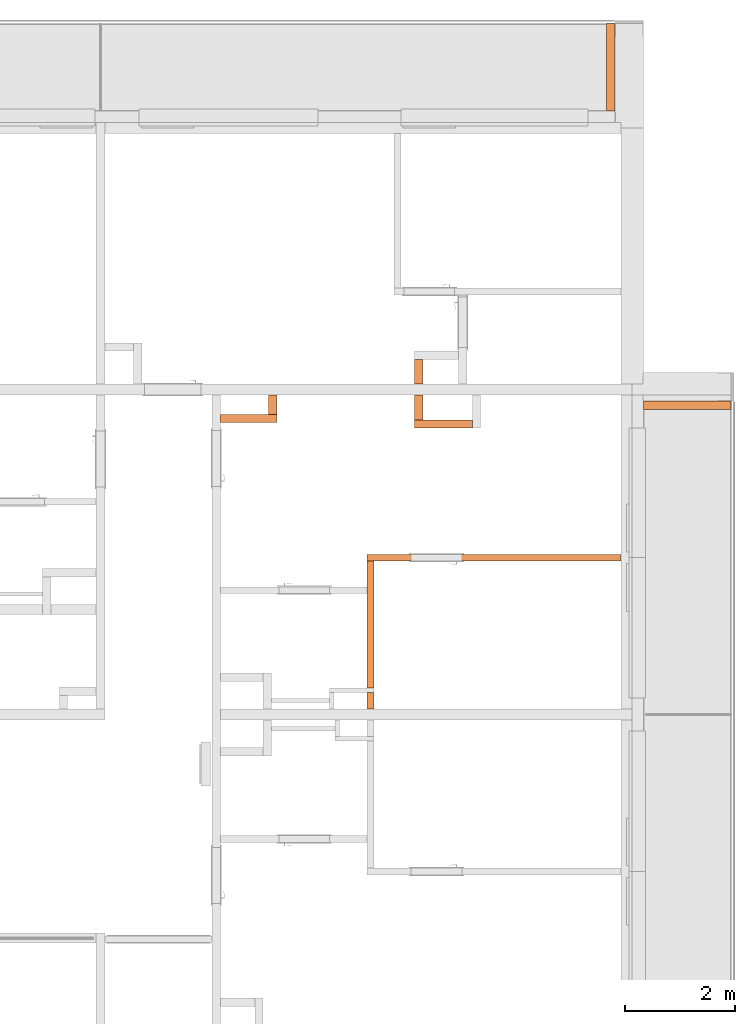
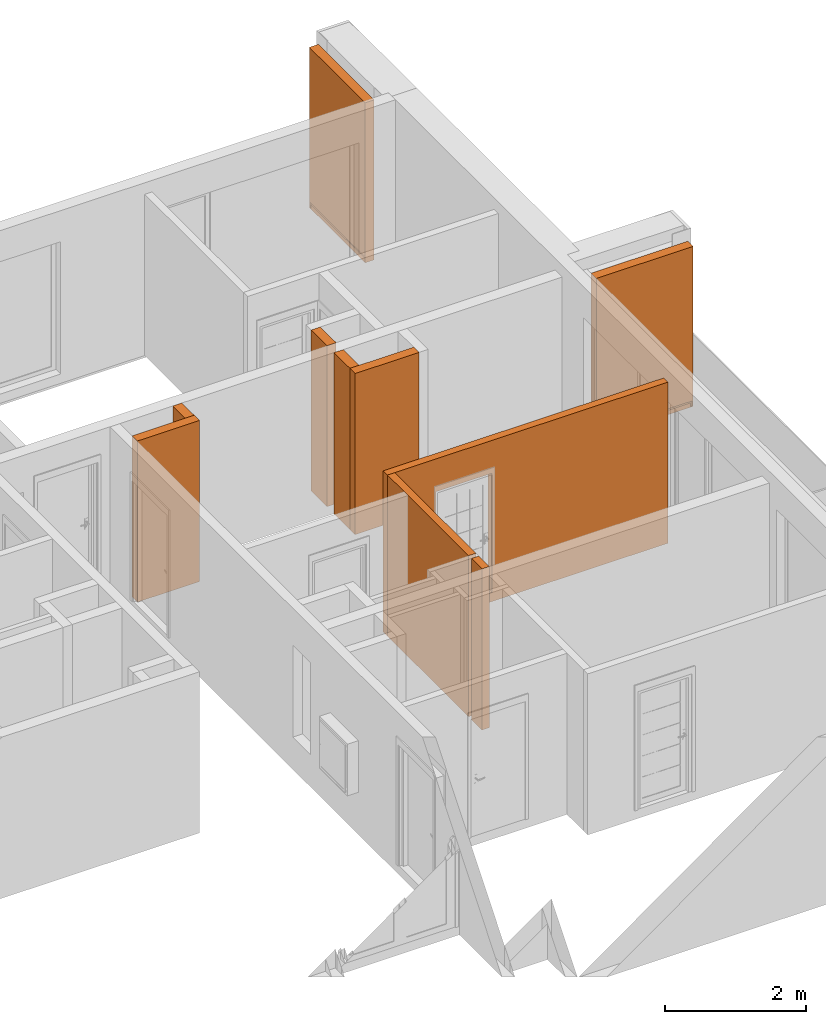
# One storey, part 66 of 66: 9 proxies, 1 opening.
"""IFC2X3 building model written with IfcOpenShell, lengths in millimetres."""

from ifc_helpers import new_model, entity, si_unit, converted_unit, derived_unit, money_unit, direction, frame, origin_with_axes, origin_2d_with_axis, place, context, subcontext, project, spatial, rectangle, extrude, faceted_brep, material, type_object, element, save


model = new_model("IFC2X3")

# Units and contexts
model_context = context("Model", 3, precision=0.01, world=origin_with_axes(), true_north=direction((0.34421633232, 0.938890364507)))
body_context = subcontext(model_context, "Body", "Model", "MODEL_VIEW")
ifc_project = project(units=[si_unit("LENGTHUNIT", "METRE", prefix="MILLI"), si_unit("AREAUNIT", "SQUARE_METRE"), si_unit("VOLUMEUNIT", "CUBIC_METRE"), converted_unit("PLANEANGLEUNIT", "DEGREE", entity("IfcPlaneAngleMeasure", 0.0174532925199), si_unit("PLANEANGLEUNIT", "RADIAN"), dimensions=[0, 0, 0, 0, 0, 0, 0]), si_unit("SOLIDANGLEUNIT", "STERADIAN"), money_unit("USD"), converted_unit("TIMEUNIT", "Year", entity("IfcTimeMeasure", 31556926.0), si_unit("TIMEUNIT", "SECOND"), dimensions=[0, 0, 1, 0, 0, 0, 0]), si_unit("MASSUNIT", "GRAM", prefix="KILO"), si_unit("THERMODYNAMICTEMPERATUREUNIT", "DEGREE_CELSIUS"), si_unit("LUMINOUSINTENSITYUNIT", "LUMEN"), si_unit("ENERGYUNIT", "JOULE", prefix="MEGA"), derived_unit("THERMALCONDUCTANCEUNIT", [(si_unit("POWERUNIT", "WATT"), 1), (si_unit("LENGTHUNIT", "METRE"), -1), (si_unit("THERMODYNAMICTEMPERATUREUNIT", "KELVIN"), -1)]), derived_unit("SPECIFICHEATCAPACITYUNIT", [(si_unit("ENERGYUNIT", "JOULE"), 1), (si_unit("MASSUNIT", "GRAM", prefix="KILO"), -1), (si_unit("THERMODYNAMICTEMPERATUREUNIT", "KELVIN"), -1)]), derived_unit("MASSDENSITYUNIT", [(si_unit("MASSUNIT", "GRAM", prefix="KILO"), 1), (si_unit("VOLUMEUNIT", "CUBIC_METRE"), -1)])], contexts=[model_context])

# Site, building, storey
site_placement = place(None, origin_with_axes())
site = spatial("IfcSite", under=ifc_project, at=site_placement, Name="USTRONIE MORSKIE", CompositionType="ELEMENT")
building_placement = place(site_placement, origin_with_axes())
building = spatial("IfcBuilding", under=site, at=building_placement, Name="Budynek", CompositionType="ELEMENT")
storey_placement = place(building_placement, frame((0.0, 0.0, 10000.0), z_axis=(0.0, 0.0, 1.0), x_axis=(1.0, 0.0, 0.0)))
storey = spatial("IfcBuildingStorey", under=building, at=storey_placement, Name="PIĘTRO 3", CompositionType="ELEMENT", Elevation=10000.0)

# Proxy
ifc_material_1 = material(Name="Bloczki silikatowe")
building_element_proxy_type_1 = type_object("IfcBuildingElementProxyType", Name="Bloczki silikatowe 120", PredefinedType="NOTDEFINED")
proxy_1_placement = place(storey_placement, frame((420917.920919, 738801.199036, -160.0), z_axis=(0.0, 0.0, 1.0), x_axis=(0.0, 1.0, 0.0)))
element("IfcBuildingElementProxy", 1, at=proxy_1_placement, inside=storey, type_object=building_element_proxy_type_1, material=ifc_material_1, Name="SW-04", context=body_context, shape_type="Brep", body=[
    faceted_brep([(400.01915523, -60.0, 2800.0), (400.01915523, 60.0, 2800.0), (99.9995896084, 60.0, 2800.0), (99.9995887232, -60.0, 2800.0), (400.01915523, -60.0, 0.0), (400.01915523, 60.0, 0.0), (99.9995896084, 60.0, 0.0), (99.9995887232, -60.0, 0.0)], [[[0, 1, 2, 3]], [[1, 0, 4, 5]], [[1, 5, 6, 2]], [[7, 3, 2, 6]], [[4, 0, 3, 7]], [[5, 4, 7, 6]]]),
    faceted_brep([(2790.01935038, -60.0, 2800.0), (2790.01935038, 60.0, 2800.0), (480.01915523, 60.0, 2800.0), (480.01915523, -60.0, 2800.0), (2790.01935038, -60.0, 0.0), (2790.01935038, 60.0, 0.0), (480.01915523, 60.0, 0.0), (480.01915523, -60.0, 0.0)], [[[0, 1, 2, 3]], [[1, 0, 4, 5]], [[1, 5, 6, 2]], [[7, 3, 2, 6]], [[4, 0, 3, 7]], [[5, 4, 7, 6]]]),
])

# Proxy, opening
proxy_2_placement = place(storey_placement, frame((420917.920919, 741651.218387, -160.0), z_axis=(0.0, 0.0, 1.0), x_axis=(1.0, 0.0, 0.0)))
proxy_2 = element("IfcBuildingElementProxy", 2, at=proxy_2_placement, inside=storey, type_object=building_element_proxy_type_1, material=ifc_material_1, Name="SW-04", context=body_context, shape_type="Brep", body=[
    faceted_brep([(4550.0, 59.9999999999, 0.0), (4550.0, -59.9999999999, 0.0), (-60.0, -59.9999999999, 0.0), (-60.0, 59.9999999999, 0.0), (4550.0, 59.9999999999, 2800.0), (4550.0, -59.9999999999, 2800.0), (-60.0, -59.9999999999, 2800.0), (-60.0, 59.9999999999, 2800.0)], [[[0, 1, 2, 3]], [[1, 0, 4, 5]], [[1, 5, 6, 2]], [[7, 3, 2, 6]], [[4, 0, 3, 7]], [[5, 4, 7, 6]]]),
])
opening_placement = place(proxy_2_placement, frame((1200.0, 0.0, 160.0), z_axis=(0.0, 0.0, 1.0), x_axis=(1.0, 0.0, 0.0)))
element("IfcOpeningElement", 3, at=opening_placement, cuts=proxy_2, Name="Dw.3", context=body_context, shape_type="SweptSolid", body=[
    extrude(rectangle(XDim=920.0, YDim=2070.0, at=origin_2d_with_axis()), frame((0.0, -120.0, 1035.0), z_axis=(0.0, 1.0, 0.0), x_axis=(-1.0, 0.0, 0.0)), (0.0, 0.0, 1.0), 360.0),
    extrude(rectangle(XDim=994.0, YDim=2177.0, at=origin_2d_with_axis()), frame((0.0, -59.9999999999, 1088.5), z_axis=(0.0, 1.0, 0.0), x_axis=(-1.0, 0.0, 0.0)), (0.0, 0.0, -1.0), 120.0),
    extrude(rectangle(XDim=994.0, YDim=2177.0, at=origin_2d_with_axis()), frame((0.0, 60.0000000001, 1088.5), z_axis=(0.0, -1.0, 0.0), x_axis=(-1.0, 0.0, 0.0)), (0.0, 0.0, -1.0), 120.0),
])

# Proxies
building_element_proxy_type_2 = type_object("IfcBuildingElementProxyType", Name="Bloczki silikatowe 150", PredefinedType="NOTDEFINED")
proxy_3_placement = place(storey_placement, frame((421792.920919, 744076.199036, -160.0), z_axis=(0.0, 0.0, 1.0), x_axis=(1.0, 0.0, 0.0)))
element("IfcBuildingElementProxy", 4, at=proxy_3_placement, inside=storey, type_object=building_element_proxy_type_2, material=ifc_material_1, Name="SW-03", context=body_context, shape_type="Brep", body=[
    faceted_brep([(975.0, -75.0, 2800.0), (975.0, 75.0, 2800.0), (-75.0, 75.0, 2800.0), (-75.0, -75.0, 2800.0), (975.0, -75.0, 0.0), (975.0, 75.0, 0.0), (-75.0, 75.0, 0.0), (-75.0, -75.0, 0.0)], [[[0, 1, 2, 3]], [[1, 0, 4, 5]], [[1, 5, 6, 2]], [[7, 3, 2, 6]], [[4, 0, 3, 7]], [[5, 4, 7, 6]]]),
])
proxy_4_placement = place(storey_placement, frame((421792.920919, 744076.199036, -160.0), z_axis=(0.0, 0.0, 1.0), x_axis=(0.0, 1.0, 0.0)))
element("IfcBuildingElementProxy", 5, at=proxy_4_placement, inside=storey, type_object=building_element_proxy_type_2, material=ifc_material_1, Name="SW-03", context=body_context, shape_type="Brep", body=[
    faceted_brep([(75.0, -75.0, 0.0), (525.0, -75.0, 0.0), (525.0, -75.0, 2800.0), (75.0, -75.0, 2800.0), (75.0, 75.0, 0.0), (525.0, 75.0, 0.0), (525.0, 75.0, 2800.0), (75.0, 75.0, 2800.0)], [[[0, 1, 2, 3]], [[4, 5, 1, 0]], [[5, 6, 2, 1]], [[3, 2, 6, 7]], [[0, 3, 7, 4]], [[7, 6, 5, 4]]]),
])
proxy_5_placement = place(storey_placement, frame((419142.92182, 744176.199036, -160.0), z_axis=(0.0, 0.0, 1.0), x_axis=(0.0, 1.0, 0.0)))
element("IfcBuildingElementProxy", 6, at=proxy_5_placement, inside=storey, type_object=building_element_proxy_type_2, material=ifc_material_1, Name="SW-03", context=body_context, shape_type="Brep", body=[
    faceted_brep([(425.0, -75.0, 2800.0), (425.0, 75.0, 2800.0), (75.0, 75.0, 2800.0), (75.0, -75.0, 2800.0), (425.0, -75.0, 0.0), (425.0, 75.0, 0.0), (75.0, 75.0, 0.0), (75.0, -75.0, 0.0)], [[[0, 1, 2, 3]], [[1, 0, 4, 5]], [[1, 5, 6, 2]], [[7, 3, 2, 6]], [[4, 0, 3, 7]], [[5, 4, 7, 6]]]),
])
proxy_6_placement = place(storey_placement, frame((418117.920919, 744176.199036, -160.0), z_axis=(0.0, 0.0, 1.0), x_axis=(1.0, 0.0, 0.0)))
element("IfcBuildingElementProxy", 7, at=proxy_6_placement, inside=storey, type_object=building_element_proxy_type_2, material=ifc_material_1, Name="SW-03", context=body_context, shape_type="Brep", body=[
    faceted_brep([(1100.00090117, -75.0, 2800.0), (1100.00090117, 75.0, 2800.0), (80.0, 75.0, 2800.0), (80.0, -75.0, 2800.0), (1100.00090117, -75.0, 0.0), (1100.00090117, 75.0, 0.0), (80.0, 75.0, 0.0), (80.0, -75.0, 0.0)], [[[0, 1, 2, 3]], [[1, 0, 4, 5]], [[1, 5, 6, 2]], [[7, 3, 2, 6]], [[4, 0, 3, 7]], [[5, 4, 7, 6]]]),
])
proxy_7_placement = place(storey_placement, frame((421792.920919, 745326.199036, -160.0), z_axis=(0.0, 0.0, 1.0), x_axis=(0.0, -1.0, 0.0)))
element("IfcBuildingElementProxy", 8, at=proxy_7_placement, inside=storey, type_object=building_element_proxy_type_2, material=ifc_material_1, Name="Œciana-007", context=body_context, shape_type="Brep", body=[
    faceted_brep([(525.0, 75.0, 0.0), (525.0, -75.0, 0.0), (75.0, -75.0, 0.0), (75.0, 75.0, 0.0), (525.0, 75.0, 2800.0), (525.0, -75.0, 2800.0), (75.0, -75.0, 2800.0), (75.0, 75.0, 2800.0)], [[[0, 1, 2, 3]], [[1, 0, 4, 5]], [[1, 5, 6, 2]], [[7, 3, 2, 6]], [[4, 0, 3, 7]], [[5, 4, 7, 6]]]),
])
ifc_material_2 = material(Name="Laminat")
building_element_proxy_type_3 = type_object("IfcBuildingElementProxyType", Name="Laminat 150", PredefinedType="NOTDEFINED")
proxy_8_placement = place(storey_placement, frame((425877.920919, 744416.199036, -180.0), z_axis=(0.0, 0.0, 1.0), x_axis=(1.0, 0.0, 0.0)))
element("IfcBuildingElementProxy", 9, at=proxy_8_placement, inside=storey, type_object=building_element_proxy_type_3, material=ifc_material_2, Name="SW-03", context=body_context, shape_type="Brep", body=[
    faceted_brep([(0.0, -75.0, 2809.99999183), (0.0, -75.0, 29.9999962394), (1589.99971409, -75.0, 29.9999962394), (1590.0, -75.0, 2809.99999183), (1547.49980813, -75.0, 104.999995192), (4.99980812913, -75.0, 104.999995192), (4.99980812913, -75.0, 129.999995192), (1572.49971536, -75.0, 129.999995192), (1572.49971536, -75.0, 34.9999951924), (1547.49980813, -75.0, 34.9999951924), (0.0, 75.0, 2809.99999183), (0.0, 75.0, 29.9999962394), (1589.99971409, 75.0, 29.9999962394), (1590.0, 75.0, 2809.99999183), (1547.49980813, 75.0, 104.999995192), (4.99980812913, 75.0, 104.999995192), (4.99980812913, 75.0, 129.999995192), (1572.49971536, 75.0, 129.999995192), (1572.49971536, 75.0, 34.9999951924), (1547.49980813, 75.0, 34.9999951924)], [[[0, 1, 2, 3], [4, 5, 6, 7, 8, 9]], [[10, 11, 1, 0]], [[1, 11, 12, 2]], [[3, 2, 12, 13]], [[10, 0, 3, 13]], [[4, 14, 15, 5]], [[5, 15, 16, 6]], [[6, 16, 17, 7]], [[7, 17, 18, 8]], [[8, 18, 19, 9]], [[9, 19, 14, 4]], [[13, 12, 11, 10], [14, 19, 18, 17, 16, 15]]]),
])
proxy_9_placement = place(storey_placement, frame((425282.78799, 749761.196429, -160.0), z_axis=(0.0, 0.0, 1.0), x_axis=(-9.14543759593e-06, 0.999999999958, 0.0)))
element("IfcBuildingElementProxy", 10, at=proxy_9_placement, inside=storey, type_object=building_element_proxy_type_3, material=ifc_material_2, Name="SW-03", context=body_context, shape_type="Brep", body=[
    faceted_brep([(0.0, -74.9999999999, 9.99999623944), (0.0, 75.0, 9.99999510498), (1589.8442084, 75.0, 9.99999743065), (1589.8442084, -74.9999999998, 9.99999623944), (-0.000681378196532, -75.0, 2789.99999183), (0.0, 75.0, 2789.99999183), (1589.8442084, 75.0, 2789.99999183), (4.99980812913, 75.0, 109.999995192), (4.99980812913, 75.0, 84.9999951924), (1547.49980813, 75.0, 84.9999951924), (1547.49980813, 75.0, 14.9999951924), (1572.49971536, 75.0, 14.9999951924), (1572.49971536, 75.0, 109.999995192), (1589.8442084, -75.0000000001, 2789.99999183), (1547.49980813, -74.9999999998, 84.9999951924), (4.99980812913, -74.9999999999, 84.9999951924), (4.99980812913, -74.9999999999, 109.999995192), (1572.49971536, -74.9999999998, 109.999995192), (1572.49971536, -74.9999999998, 14.9999951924), (1547.49980813, -74.9999999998, 14.9999951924)], [[[0, 1, 2, 3]], [[4, 5, 1, 0]], [[6, 2, 1, 5], [7, 8, 9, 10, 11, 12]], [[3, 2, 6, 13]], [[0, 3, 13, 4], [14, 15, 16, 17, 18, 19]], [[13, 6, 5, 4]], [[15, 8, 7, 16]], [[14, 9, 8, 15]], [[19, 10, 9, 14]], [[18, 11, 10, 19]], [[17, 12, 11, 18]], [[16, 7, 12, 17]]]),
])

save(model, "model.ifc")
